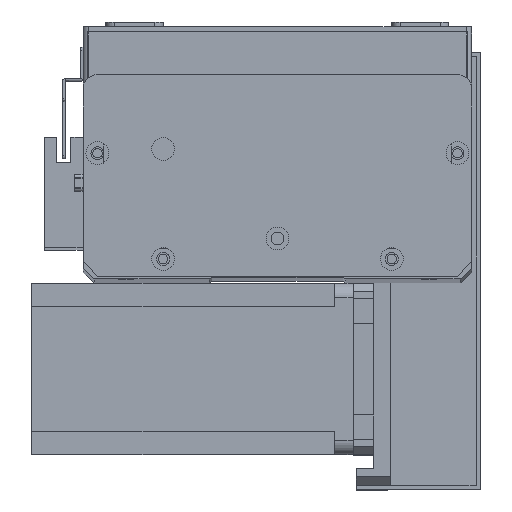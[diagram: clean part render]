
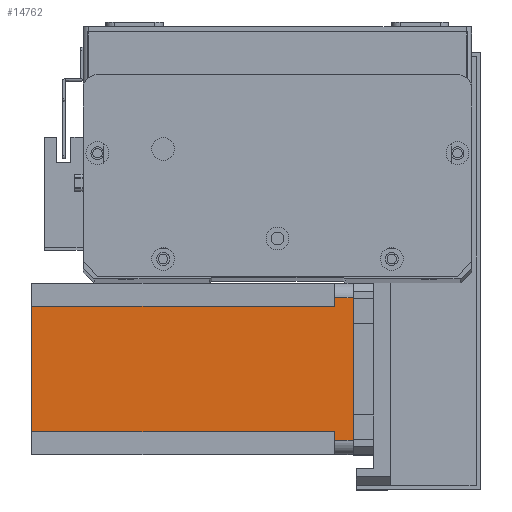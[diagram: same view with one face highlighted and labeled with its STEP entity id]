
A CAD part, top view. The second image highlights one B-rep face of the part: STEP entity #14762.
In plain terms, the highlighted planar face has unit normal (0, 0, 1) as drawn and (0, -1, 0) by its records, which use the part's own axes.
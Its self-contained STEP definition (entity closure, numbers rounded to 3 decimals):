
#106 = ORIENTED_EDGE ( 'NONE', *, *, #6191, .F. ) ;
#116 = EDGE_CURVE ( 'NONE', #19111, #26022, #15470, .T. ) ;
#338 = ORIENTED_EDGE ( 'NONE', *, *, #12834, .F. ) ;
#452 = CARTESIAN_POINT ( 'NONE',  ( 52., 0., -112.5 ) ) ;
#667 = ORIENTED_EDGE ( 'NONE', *, *, #116, .T. ) ;
#765 = AXIS2_PLACEMENT_3D ( 'NONE', #8849, #8558, #8493 ) ;
#920 = VECTOR ( 'NONE', #25080, 1000. ) ;
#1830 = CARTESIAN_POINT ( 'NONE',  ( 52., 0., -6.5 ) ) ;
#2164 = LINE ( 'NONE', #14985, #13499 ) ;
#2807 = EDGE_CURVE ( 'NONE', #19111, #19810, #4773, .T. ) ;
#3077 = VECTOR ( 'NONE', #22451, 1000. ) ;
#3290 = VECTOR ( 'NONE', #7625, 1000. ) ;
#4541 = FACE_OUTER_BOUND ( 'NONE', #20226, .T. ) ;
#4773 = LINE ( 'NONE', #8434, #15358 ) ;
#6191 = EDGE_CURVE ( 'NONE', #14037, #26022, #18646, .T. ) ;
#7625 = DIRECTION ( 'NONE',  ( 0., 0., 1. ) ) ;
#8434 = CARTESIAN_POINT ( 'NONE',  ( 0., 0., 0. ) ) ;
#8493 = DIRECTION ( 'NONE',  ( 0., 0., -1. ) ) ;
#8558 = DIRECTION ( 'NONE',  ( 0., -1., 0. ) ) ;
#8768 = PLANE ( 'NONE',  #765 ) ;
#8828 = CARTESIAN_POINT ( 'NONE',  ( 5., 0., 0. ) ) ;
#8849 = CARTESIAN_POINT ( 'NONE',  ( 0., 0., -112.5 ) ) ;
#8999 = CARTESIAN_POINT ( 'NONE',  ( 55., 0., -6.5 ) ) ;
#9116 = DIRECTION ( 'NONE',  ( -1., 0., 0. ) ) ;
#9386 = CARTESIAN_POINT ( 'NONE',  ( 52., 0., -112.5 ) ) ;
#10185 = ORIENTED_EDGE ( 'NONE', *, *, #21767, .T. ) ;
#10706 = CARTESIAN_POINT ( 'NONE',  ( 8., 0., -112.5 ) ) ;
#11073 = CARTESIAN_POINT ( 'NONE',  ( 8., 0., -6.5 ) ) ;
#11080 = VERTEX_POINT ( 'NONE', #8999 ) ;
#11084 = DIRECTION ( 'NONE',  ( 1., 0., 0. ) ) ;
#11241 = VERTEX_POINT ( 'NONE', #10706 ) ;
#12786 = VECTOR ( 'NONE', #9116, 1000. ) ;
#12834 = EDGE_CURVE ( 'NONE', #11241, #14037, #24743, .T. ) ;
#13499 = VECTOR ( 'NONE', #17224, 1000. ) ;
#14037 = VERTEX_POINT ( 'NONE', #29033 ) ;
#14252 = DIRECTION ( 'NONE',  ( 0., 0., -1. ) ) ;
#14736 = VERTEX_POINT ( 'NONE', #9386 ) ;
#14762 = ADVANCED_FACE ( 'NONE', ( #4541 ), #8768, .T. ) ;
#14985 = CARTESIAN_POINT ( 'NONE',  ( 52., 0., -6.5 ) ) ;
#15226 = EDGE_CURVE ( 'NONE', #11241, #14736, #27665, .T. ) ;
#15358 = VECTOR ( 'NONE', #11084, 1000. ) ;
#15400 = ORIENTED_EDGE ( 'NONE', *, *, #17281, .F. ) ;
#15470 = LINE ( 'NONE', #17785, #26650 ) ;
#16733 = ORIENTED_EDGE ( 'NONE', *, *, #2807, .F. ) ;
#17224 = DIRECTION ( 'NONE',  ( 1., 0., 0. ) ) ;
#17281 = EDGE_CURVE ( 'NONE', #19059, #14736, #18834, .T. ) ;
#17785 = CARTESIAN_POINT ( 'NONE',  ( 5., 0., -112.5 ) ) ;
#18646 = LINE ( 'NONE', #11073, #12786 ) ;
#18803 = VECTOR ( 'NONE', #23168, 1000. ) ;
#18834 = LINE ( 'NONE', #452, #920 ) ;
#19059 = VERTEX_POINT ( 'NONE', #1830 ) ;
#19111 = VERTEX_POINT ( 'NONE', #8828 ) ;
#19810 = VERTEX_POINT ( 'NONE', #20686 ) ;
#20226 = EDGE_LOOP ( 'NONE', ( #10185, #24546, #16733, #667, #106, #338, #27924, #15400 ) ) ;
#20686 = CARTESIAN_POINT ( 'NONE',  ( 55., 0., 0. ) ) ;
#20953 = CARTESIAN_POINT ( 'NONE',  ( 0., 0., -112.5 ) ) ;
#21289 = LINE ( 'NONE', #25306, #3290 ) ;
#21767 = EDGE_CURVE ( 'NONE', #19059, #11080, #2164, .T. ) ;
#22451 = DIRECTION ( 'NONE',  ( 1., 0., 0. ) ) ;
#23135 = CARTESIAN_POINT ( 'NONE',  ( 8., 0., -112.5 ) ) ;
#23168 = DIRECTION ( 'NONE',  ( 0., 0., 1. ) ) ;
#24546 = ORIENTED_EDGE ( 'NONE', *, *, #26215, .T. ) ;
#24743 = LINE ( 'NONE', #23135, #18803 ) ;
#25080 = DIRECTION ( 'NONE',  ( 0., 0., -1. ) ) ;
#25306 = CARTESIAN_POINT ( 'NONE',  ( 55., 0., -112.5 ) ) ;
#26022 = VERTEX_POINT ( 'NONE', #26871 ) ;
#26215 = EDGE_CURVE ( 'NONE', #11080, #19810, #21289, .T. ) ;
#26650 = VECTOR ( 'NONE', #14252, 1000. ) ;
#26871 = CARTESIAN_POINT ( 'NONE',  ( 5., 0., -6.5 ) ) ;
#27665 = LINE ( 'NONE', #20953, #3077 ) ;
#27924 = ORIENTED_EDGE ( 'NONE', *, *, #15226, .T. ) ;
#29033 = CARTESIAN_POINT ( 'NONE',  ( 8., 0., -6.5 ) ) ;
